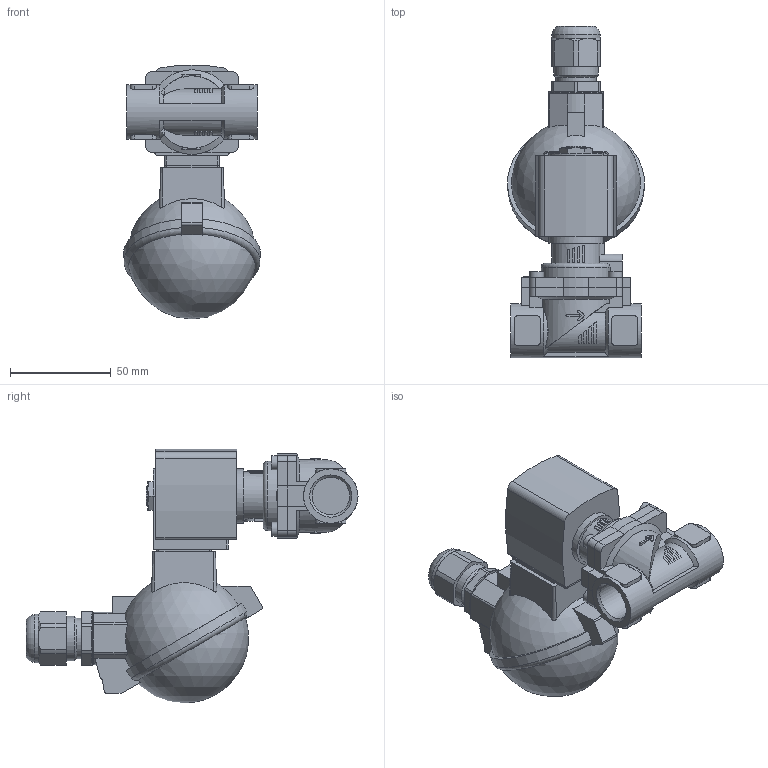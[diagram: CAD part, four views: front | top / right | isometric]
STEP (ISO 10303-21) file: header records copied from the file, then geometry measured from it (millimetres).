
FILE_DESCRIPTION(/* description */ ('STEP AP214'),/* implementation_level */ '2;1');
FILE_NAME(/* name */ '6281-383115-2_2-Way_Solenoid_Valve__Servo-assisted__General_Purpose',/* time_stamp */ '2024-08-20T16:16:35+02:00',/* author */ ('License CC BY-ND 4.0'),/* organization */ ('CADENAS'),/* preprocessor_version */ 'ST-DEVELOPER v19.3',/* originating_system */ 'PARTsolutions',/* authorisation */ ' ');
FILE_SCHEMA (('AUTOMOTIVE_DESIGN {1 0 10303 214 3 1 1}'));
Length unit declared in the file: millimetre
Products named in the file (4): 6281-383115-2/2-Way Solenoid Valve, Servo-assisted, General Purpose; 5281ev130VA2/2-Wege-Magnetventil mit Servomembran-Deckel 42 ; 6213-13G1/2VA-Gehaeuse-; AC10ex-6ATEXKLK_MB05Plan-Coil
Assembly tree (3 placements, depth 2):
  6281-383115-2/2-Way Solenoid Valve, Servo-assisted, General Purpose
    5281ev130VA2/2-Wege-Magnetventil mit Servomembran-Deckel 42 
    6213-13G1/2VA-Gehaeuse-
    AC10ex-6ATEXKLK_MB05Plan-Coil
Bounding box: 67.86 x 164.8 x 126.03 mm (x, y, z)
Volume: 314937.7 mm3; surface area: 53603.5 mm2
Topology: 3 solids, 3 shells, 399 faces, 1036 edges, 676 vertices
Faces by surface type: plane 247, cylinder 117, cone 27, torus 4, sphere 4
Full cylindrical faces by diameter (mm): 3.242 x1, 7 x4, 9.74 x1, 14 x1, 17.294 x1, 18.631 x2, 20 x1, 22 x1, 23 x1, 24 x1, 27 x3
Entity records: 13847 total; most frequent: CARTESIAN_POINT 2417, DIRECTION 2064, ORIENTED_EDGE 1992, EDGE_CURVE 996, AXIS2_PLACEMENT_3D 758, VERTEX_POINT 664, LINE 548, VECTOR 548
